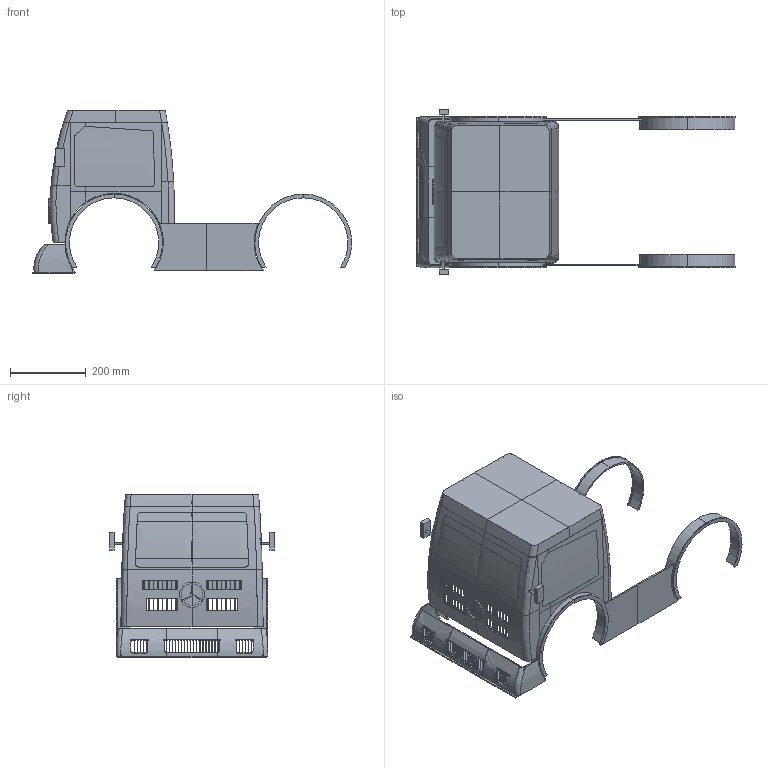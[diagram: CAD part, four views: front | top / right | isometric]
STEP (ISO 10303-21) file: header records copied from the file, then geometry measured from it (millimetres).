
FILE_DESCRIPTION(('Open CASCADE Model'),'2;1');
FILE_NAME('Open CASCADE Shape Model','2026-11-03T04:29:38',('Author'),( 'Open CASCADE'),'Open CASCADE STEP processor 7.8','Open CASCADE 7.8' ,'Unknown');
FILE_SCHEMA(('AUTOMOTIVE_DESIGN { 1 0 10303 214 1 1 1 1 }'));
Length unit declared in the file: millimetre
Products named in the file (56): FORMULA_TRUCK_COM_VIDROS_OPCIONAIS; 01_cabine_frente_1_1_1; 01_cabine_frente_1_1_2; 01_cabine_frente_2_1_1; 01_cabine_frente_2_1_2; 01_cabine_lateral_Ynegativo_1_1; 01_cabine_lateral_Ynegativo_1_2; 01_cabine_lateral_Ynegativo_2_1; 01_cabine_lateral_Ynegativo_2_2; 01_cabine_lateral_Ypositivo_1_1; 01_cabine_lateral_Ypositivo_1_2; 01_cabine_lateral_Ypositivo_2_1; 01_cabine_lateral_Ypositivo_2_2; 01_cabine_teto_1_1_1; 01_cabine_teto_1_1_2; 01_cabine_teto_1_2_1; 01_cabine_teto_1_2_2; 01_cabine_traseiro_1_1_1; 01_cabine_traseiro_1_1_2; 01_cabine_traseiro_2_1_1; 01_cabine_traseiro_2_1_2; 06_parachoque_secao_1; 06_parachoque_secao_2_1; 06_parachoque_secao_2_2; 06_parachoque_secao_3; 07_lamina_inferior_secao_1; 07_lamina_inferior_secao_2; 07_lamina_inferior_secao_3; 08_paralama_dianteiro_-1_parte_1; 08_paralama_dianteiro_-1_parte_2; 08_paralama_dianteiro_1_parte_1; 08_paralama_dianteiro_1_parte_2; 09_paralama_traseiro_-1_parte_1; 09_paralama_traseiro_-1_parte_2; 09_paralama_traseiro_1_parte_1; 09_paralama_traseiro_1_parte_2; 10_carenagem_-1_secao_1; 10_carenagem_-1_secao_2; 10_carenagem_1_secao_1; 10_carenagem_1_secao_2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
Assembly tree (55 placements, depth 2):
  FORMULA_TRUCK_COM_VIDROS_OPCIONAIS
    01_cabine_frente_1_1_1
    01_cabine_frente_1_1_2
    01_cabine_frente_2_1_1
    01_cabine_frente_2_1_2
    01_cabine_lateral_Ynegativo_1_1
    01_cabine_lateral_Ynegativo_1_2
    01_cabine_lateral_Ynegativo_2_1
    01_cabine_lateral_Ynegativo_2_2
    01_cabine_lateral_Ypositivo_1_1
    01_cabine_lateral_Ypositivo_1_2
    01_cabine_lateral_Ypositivo_2_1
    01_cabine_lateral_Ypositivo_2_2
    01_cabine_teto_1_1_1
    01_cabine_teto_1_1_2
    01_cabine_teto_1_2_1
    01_cabine_teto_1_2_2
    01_cabine_traseiro_1_1_1
    01_cabine_traseiro_1_1_2
    01_cabine_traseiro_2_1_1
    01_cabine_traseiro_2_1_2
    06_parachoque_secao_1
    06_parachoque_secao_2_1
    06_parachoque_secao_2_2
    06_parachoque_secao_3
    07_lamina_inferior_secao_1
    07_lamina_inferior_secao_2
    07_lamina_inferior_secao_3
    08_paralama_dianteiro_-1_parte_1
    08_paralama_dianteiro_-1_parte_2
    08_paralama_dianteiro_1_parte_1
    08_paralama_dianteiro_1_parte_2
    09_paralama_traseiro_-1_parte_1
    09_paralama_traseiro_-1_parte_2
    09_paralama_traseiro_1_parte_1
    09_paralama_traseiro_1_parte_2
    10_carenagem_-1_secao_1
    10_carenagem_-1_secao_2
    10_carenagem_1_secao_1
    10_carenagem_1_secao_2
    11_emblema_frontal
    11_grade_ventilada_1
    11_grade_ventilada_2
    11_tela_duto_-139
    11_tela_duto_0
    11_tela_duto_139
    12_espelho_-1
    12_espelho_1
    vidro_opcional_faixa_inferior_vidro_referencia_parte_1
    vidro_opcional_faixa_inferior_vidro_referencia_parte_2
    vidro_opcional_faixa_superior_vidro_referencia_parte_1
    vidro_opcional_faixa_superior_vidro_referencia_parte_2
    vidro_opcional_vidro_frontal_referencia_parte_1
    vidro_opcional_vidro_frontal_referencia_parte_2
    vidro_opcional_vidro_lateral_negativo_referencia
    vidro_opcional_vidro_lateral_positivo_referencia
Bounding box: 843.86 x 436 x 433 mm (x, y, z)
Volume: 2220707.7 mm3; surface area: 1529021.3 mm2
Topology: 55 solids, 55 shells, 1124 faces, 2722 edges, 1562 vertices
Faces by surface type: plane 893, bspline 122, cylinder 109
Full cylindrical faces by diameter (mm): 3.6 x3, 4 x2, 6 x2, 6.5 x2, 66 x1
Entity records: 91957 total; most frequent: CARTESIAN_POINT 38957, DIRECTION 8395, LINE 5976, VECTOR 5976, ORIENTED_EDGE 5444, PCURVE 5444, DEFINITIONAL_REPRESENTATION 5444, EDGE_CURVE 2722
